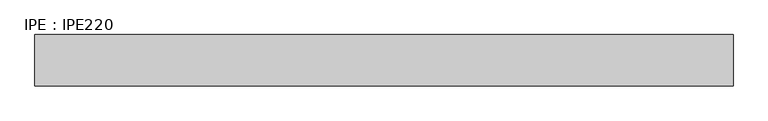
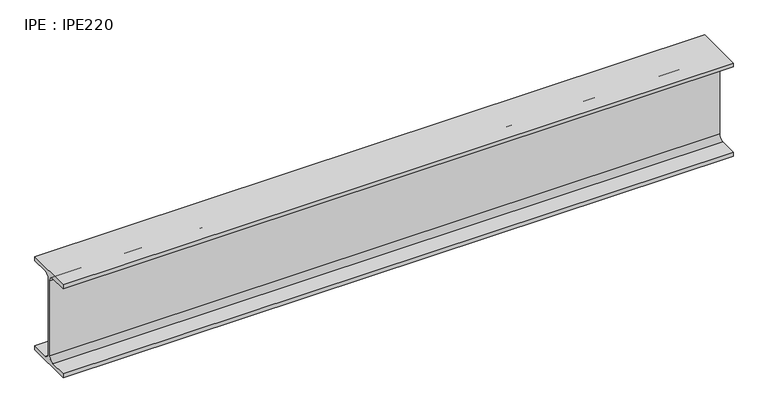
"""IFC4 building model written with IfcOpenShell, lengths in millimetres: beam geometry, IPE : IPE220."""

from ifc_helpers import new_model, si_unit, point, frame, frame_2d, origin, place, context, project, spatial, polyline, circle_curve, trimmed, segment, composite_curve, outline, extrude, source, transform, mapped, element, save


def ipe_ipe220_3578c7fd(model_context):
    return source(origin(), model_context, "Body", "SweptSolid", [
        extrude(outline(composite_curve([segment(polyline([(55.0, -100.8), (55.0, -110.0), (-55.0, -110.0), (-55.0, -100.8), (-14.95, -100.8)]), True, "CONTINUOUS"), segment(trimmed(circle_curve(frame_2d((-14.95, -88.8)), 12.0), [point((-14.95, -100.8))], [point((-2.95, -88.8))], True, "CARTESIAN"), True, "CONTINUOUS"), segment(polyline([(-2.95, -88.8), (-2.95, 88.8)]), True, "CONTINUOUS"), segment(trimmed(circle_curve(frame_2d((-14.95, 88.8)), 12.0), [point((-2.95, 88.8))], [point((-14.95, 100.8))], True, "CARTESIAN"), True, "CONTINUOUS"), segment(polyline([(-14.95, 100.8), (-55.0, 100.8), (-55.0, 110.0), (55.0, 110.0), (55.0, 100.8), (14.95, 100.8)]), True, "CONTINUOUS"), segment(trimmed(circle_curve(frame_2d((14.95, 88.8)), 12.0), [point((14.95, 100.8))], [point((2.95, 88.8))], True, "CARTESIAN"), True, "CONTINUOUS"), segment(polyline([(2.95, 88.8), (2.95, -88.8)]), True, "CONTINUOUS"), segment(trimmed(circle_curve(frame_2d((14.95, -88.8)), 12.0), [point((2.95, -88.8))], [point((14.95, -100.8))], True, "CARTESIAN"), True, "CONTINUOUS"), segment(polyline([(14.95, -100.8), (55.0, -100.8)]), True, "CONTINUOUS")], self_intersect=False)), frame((-750.0, 0.0, 0.0), z_axis=(1.0, 0.0, 0.0), x_axis=(0.0, 1.0, 0.0)), (0.0, 0.0, 1.0), 1500.0),
    ])


if __name__ == "__main__":
    model = new_model("IFC4")
    model_context = context("Model", 3, world=origin())
    ifc_project = project(units=[si_unit("LENGTHUNIT", "METRE", prefix="MILLI")], contexts=[model_context])
    site = spatial("IfcSite", under=ifc_project)
    building = spatial("IfcBuilding", under=site)
    placement = place(None, origin())
    ipe_ipe220_shape = ipe_ipe220_3578c7fd(model_context)
    element("IfcBeam", 1, ObjectType="IPE : IPE220", at=placement, inside=building, context=model_context, shape_type="MappedRepresentation", body=[
        mapped(ipe_ipe220_shape, transform((0.0, 0.0, 0.0), x_axis=(1.0, 0.0, 0.0), y_axis=(0.0, 1.0, 0.0), z_axis=(0.0, 0.0, 1.0))),
    ])
    save(model, "model.ifc")
